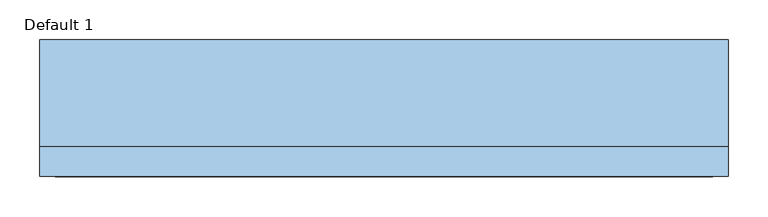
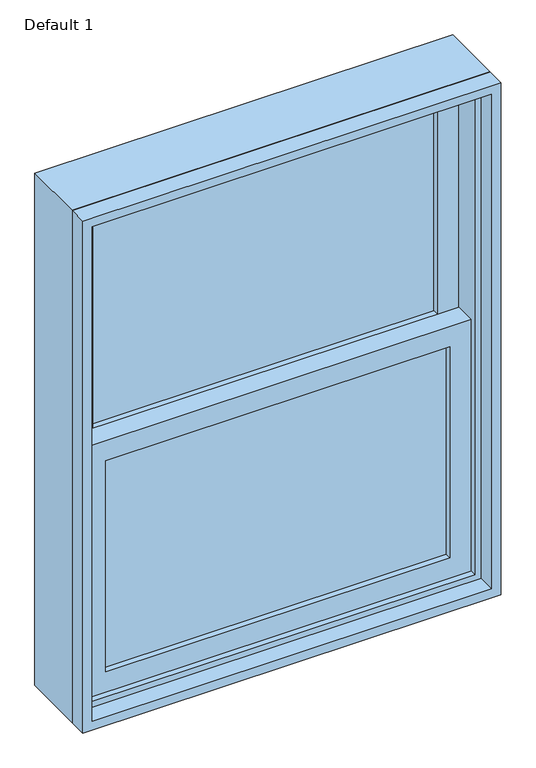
"""IFC4 building model written with IfcOpenShell, lengths in millimetres: window geometry, Planitar-Double-Hung-Single : Default 1."""

from ifc_helpers import new_model, si_unit, frame, origin, place, context, project, spatial, polyline, outline, extrude, source, transform, mapped, element, save


def default_1_4a507d28(model_context):
    return source(origin(), model_context, "Body", "SweptSolid", [
        extrude(outline(polyline([(355.6, 6.35), (355.6, 0.0), (-355.6, 0.0), (-355.6, 6.35), (355.6, 6.35)])), frame((0.0, 0.0, 990.6), z_axis=(0.0, 0.0, 1.0), x_axis=(1.0, 0.0, 0.0)), (0.0, 0.0, 1.0), 460.375),
        extrude(outline(polyline([(-355.6, -6.35), (355.6, -6.35), (355.6, -12.7), (-355.6, -12.7), (-355.6, -6.35)])), frame((0.0, 0.0, 990.6), z_axis=(0.0, 0.0, 1.0), x_axis=(1.0, 0.0, 0.0)), (0.0, 0.0, 1.0), 460.375),
        extrude(outline(polyline([(355.6, 50.8), (355.6, 44.45), (-355.6, 44.45), (-355.6, 50.8), (355.6, 50.8)])), frame((0.0, 0.0, 1495.425), z_axis=(0.0, 0.0, 1.0), x_axis=(1.0, 0.0, 0.0)), (0.0, 0.0, 1.0), 460.375),
        extrude(outline(polyline([(-355.6, 38.1), (355.6, 38.1), (355.6, 31.75), (-355.6, 31.75), (-355.6, 38.1)])), frame((0.0, 0.0, 1495.425), z_axis=(0.0, 0.0, 1.0), x_axis=(1.0, 0.0, 0.0)), (0.0, 0.0, 1.0), 460.375),
        extrude(outline(polyline([(1495.425, -400.05), (946.15, -400.05), (946.15, 400.05), (1495.425, 400.05), (1495.425, -400.05)]), holes=[polyline([(1450.975, 355.6), (990.6, 355.6), (990.6, -355.6), (1450.975, -355.6), (1450.975, 355.6)])]), frame((0.0, -25.4, 0.0), z_axis=(0.0, 1.0, 0.0), x_axis=(0.0, 0.0, 1.0)), (0.0, 0.0, 1.0), 44.45),
        extrude(outline(polyline([(2000.25, -400.05), (1450.975, -400.05), (1450.975, 400.05), (2000.25, 400.05), (2000.25, -400.05)]), holes=[polyline([(1955.8, 355.6), (1495.425, 355.6), (1495.425, -355.6), (1955.8, -355.6), (1955.8, 355.6)])]), frame((0.0, 19.05, 0.0), z_axis=(0.0, 1.0, 0.0), x_axis=(0.0, 0.0, 1.0)), (0.0, 0.0, 1.0), 44.45),
        extrude(outline(polyline([(2032.0, -431.8), (914.4, -431.8), (914.4, 431.8), (2032.0, 431.8), (2032.0, -431.8)]), holes=[polyline([(2000.25, 400.05), (946.15, 400.05), (946.15, -400.05), (2000.25, -400.05), (2000.25, 400.05)])]), frame((0.0, -38.1, 0.0), z_axis=(0.0, 1.0, 0.0), x_axis=(0.0, 0.0, 1.0)), (0.0, 0.0, 1.0), 133.35),
        extrude(outline(polyline([(2032.0, 431.8), (2032.0, -431.8), (914.4, -431.8), (914.4, 431.8), (2032.0, 431.8)]), holes=[polyline([(2012.95, 412.75), (933.45, 412.75), (933.45, -412.75), (2012.95, -412.75), (2012.95, 412.75)])]), frame((0.0, -76.2, 0.0), z_axis=(0.0, 1.0, 0.0), x_axis=(0.0, 0.0, 1.0)), (0.0, 0.0, 1.0), 38.1),
    ])


if __name__ == "__main__":
    model = new_model("IFC4")
    model_context = context("Model", 3, world=origin())
    ifc_project = project(units=[si_unit("LENGTHUNIT", "METRE", prefix="MILLI")], contexts=[model_context])
    site = spatial("IfcSite", under=ifc_project)
    building = spatial("IfcBuilding", under=site)
    placement = place(None, origin())
    default_1_shape = default_1_4a507d28(model_context)
    element("IfcWindow", 1, ObjectType="Planitar-Double-Hung-Single : Default 1", at=placement, inside=building, context=model_context, shape_type="MappedRepresentation", body=[
        mapped(default_1_shape, transform((0.0, 0.0, 0.0), x_axis=(1.0, 0.0, 0.0), y_axis=(0.0, 1.0, 0.0), z_axis=(0.0, 0.0, 1.0))),
    ])
    save(model, "model.ifc")
